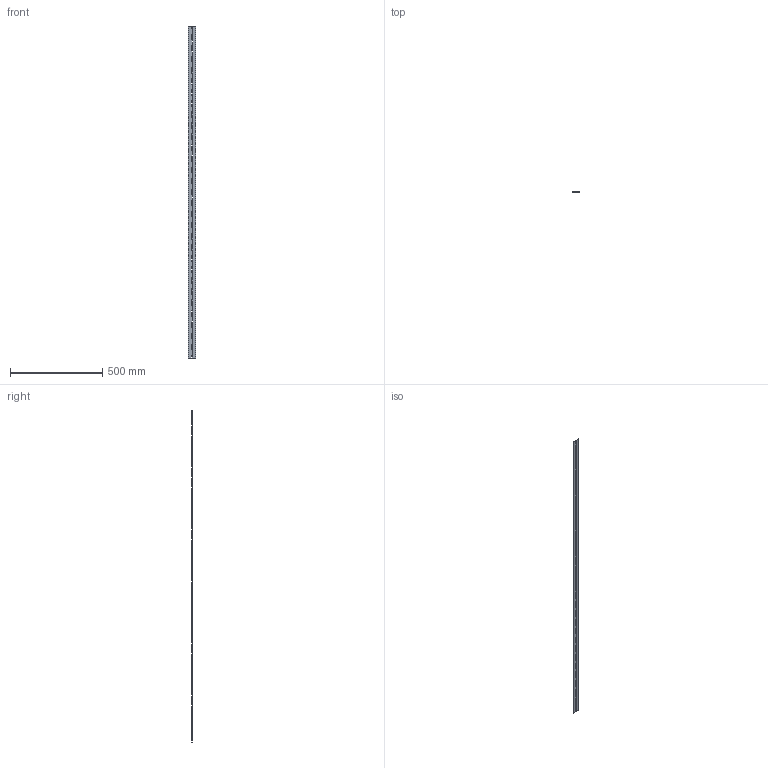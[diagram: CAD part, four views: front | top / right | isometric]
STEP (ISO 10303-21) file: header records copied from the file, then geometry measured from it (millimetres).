
FILE_DESCRIPTION(('STEP AP242'),'1');
FILE_NAME('42-1-4347.stp','2024-01-11T08:22:55',('TraceParts'),('TraceParts S.A.'),'Spatial InterOp 3D',' ',' ');
FILE_SCHEMA(('AP242_MANAGED_MODEL_BASED_3D_ENGINEERING_MIM_LF {1 0 10303 442 1 1 4}'));
Length unit declared in the file: millimetre
Products named in the file (1): 42-1-4347_1
Bounding box: 40 x 5.4 x 1800 mm (x, y, z)
Volume: 115967.5 mm3; surface area: 199880.4 mm2
Topology: 3 solids, 3 shells, 1053 faces, 3050 edges, 2003 vertices
Faces by surface type: cylinder 612, plane 441
Entity records: 35043 total; most frequent: DIRECTION 6386, CARTESIAN_POINT 6109, ORIENTED_EDGE 6100, EDGE_CURVE 3050, AXIS2_PLACEMENT_3D 2280, VERTEX_POINT 2003, LINE 1826, VECTOR 1826
